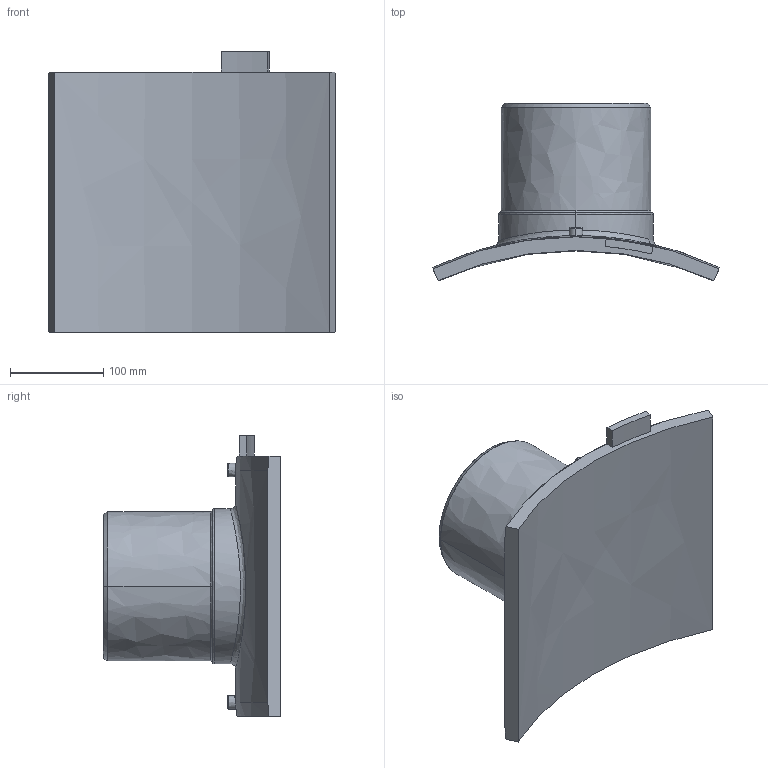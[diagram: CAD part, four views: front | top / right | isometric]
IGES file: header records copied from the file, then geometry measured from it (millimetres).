
Start section:  PTC IGES file: sa-uni_d710_160_01.igs
Global section: file name: sa-uni_d710_160_01.igs; native system: Pro/ENGINEER by Parametric Technology Corporation; preprocessor: 2011490; author: MikulicP; organization: Unknown; date: 20170206.162337; units: millimetre
Bounding box: 307.48 x 190.07 x 301 mm (x, y, z)
Surface area: 334855.9 mm2 (no closed solid volume)
Topology: 0 solids, 0 shells, 202 faces, 994 edges, 992 vertices
Faces by surface type: bspline 202
